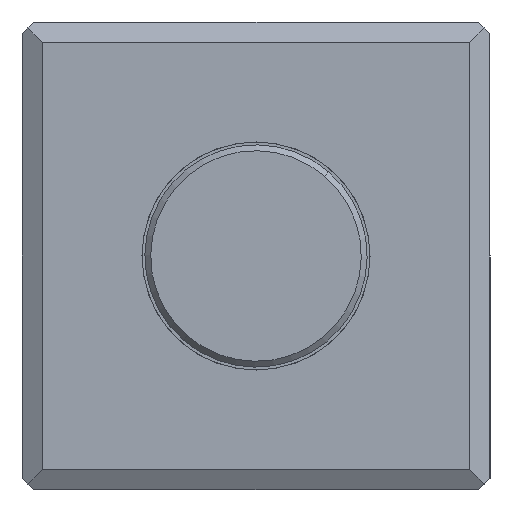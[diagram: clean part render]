
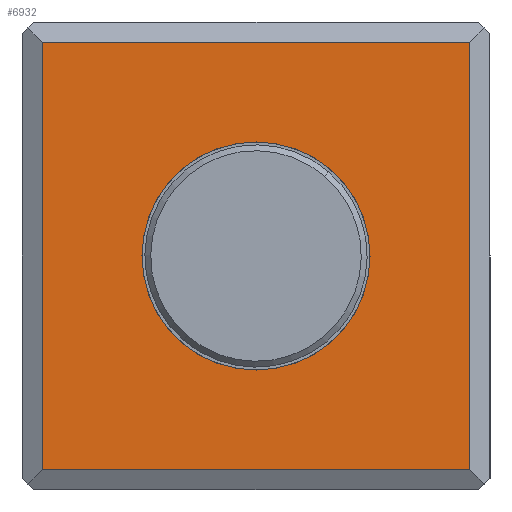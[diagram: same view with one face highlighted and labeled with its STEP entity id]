
A CAD part, left-side view. The second image highlights one B-rep face of the part: STEP entity #6932.
In plain terms, the highlighted planar face has unit normal (-1, 0, 0).
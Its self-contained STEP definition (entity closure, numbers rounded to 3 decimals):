
#29 = EDGE_CURVE ( 'NONE', #4789, #8455, #6675, .T. ) ;
#39 = CARTESIAN_POINT ( 'NONE',  ( -48., 0., 0. ) ) ;
#293 = EDGE_CURVE ( 'NONE', #5531, #4389, #4932, .T. ) ;
#337 = DIRECTION ( 'NONE',  ( 0., 1., 0. ) ) ;
#528 = CARTESIAN_POINT ( 'NONE',  ( -48., 0., 0. ) ) ;
#545 = VECTOR ( 'NONE', #7267, 1000. ) ;
#652 = DIRECTION ( 'NONE',  ( 0., 0., -1. ) ) ;
#734 = EDGE_CURVE ( 'NONE', #4389, #3025, #2541, .T. ) ;
#876 = DIRECTION ( 'NONE',  ( -1., 0., 0. ) ) ;
#995 = CARTESIAN_POINT ( 'NONE',  ( -48., 0., 9.75 ) ) ;
#1786 = VECTOR ( 'NONE', #652, 1000. ) ;
#1988 = DIRECTION ( 'NONE',  ( 0., -1., 0. ) ) ;
#2024 = ORIENTED_EDGE ( 'NONE', *, *, #293, .T. ) ;
#2060 = ORIENTED_EDGE ( 'NONE', *, *, #29, .F. ) ;
#2195 = CARTESIAN_POINT ( 'NONE',  ( -48., 18.268, 18.268 ) ) ;
#2456 = DIRECTION ( 'NONE',  ( 0., 0., -1. ) ) ;
#2541 = LINE ( 'NONE', #5665, #545 ) ;
#2940 = VECTOR ( 'NONE', #1988, 1000. ) ;
#2944 = EDGE_LOOP ( 'NONE', ( #2024, #7387, #5568, #7682 ) ) ;
#3018 = CARTESIAN_POINT ( 'NONE',  ( -48., 0., -9.75 ) ) ;
#3025 = VERTEX_POINT ( 'NONE', #5192 ) ;
#3229 = AXIS2_PLACEMENT_3D ( 'NONE', #528, #9245, #5267 ) ;
#3363 = EDGE_CURVE ( 'NONE', #8455, #4789, #8752, .T. ) ;
#3559 = CARTESIAN_POINT ( 'NONE',  ( -48., -9.75, -18.268 ) ) ;
#3746 = AXIS2_PLACEMENT_3D ( 'NONE', #39, #4866, #2456 ) ;
#3782 = PLANE ( 'NONE',  #4471 ) ;
#3909 = FACE_BOUND ( 'NONE', #8600, .T. ) ;
#4052 = LINE ( 'NONE', #7037, #1786 ) ;
#4230 = LINE ( 'NONE', #6826, #6105 ) ;
#4260 = FACE_OUTER_BOUND ( 'NONE', #2944, .T. ) ;
#4389 = VERTEX_POINT ( 'NONE', #6786 ) ;
#4471 = AXIS2_PLACEMENT_3D ( 'NONE', #7221, #876, #4873 ) ;
#4515 = CARTESIAN_POINT ( 'NONE',  ( -48., 18.268, -18.268 ) ) ;
#4789 = VERTEX_POINT ( 'NONE', #995 ) ;
#4866 = DIRECTION ( 'NONE',  ( -1., 0., 0. ) ) ;
#4873 = DIRECTION ( 'NONE',  ( 0., 0., -1. ) ) ;
#4932 = LINE ( 'NONE', #3559, #2940 ) ;
#5192 = CARTESIAN_POINT ( 'NONE',  ( -48., -18.268, 18.268 ) ) ;
#5267 = DIRECTION ( 'NONE',  ( 0., 0., -1. ) ) ;
#5531 = VERTEX_POINT ( 'NONE', #4515 ) ;
#5568 = ORIENTED_EDGE ( 'NONE', *, *, #8862, .T. ) ;
#5617 = EDGE_CURVE ( 'NONE', #8908, #5531, #4052, .T. ) ;
#5665 = CARTESIAN_POINT ( 'NONE',  ( -48., -18.268, 0. ) ) ;
#6105 = VECTOR ( 'NONE', #337, 1000. ) ;
#6675 = CIRCLE ( 'NONE', #3229, 9.75 ) ;
#6786 = CARTESIAN_POINT ( 'NONE',  ( -48., -18.268, -18.268 ) ) ;
#6826 = CARTESIAN_POINT ( 'NONE',  ( -48., -9.75, 18.268 ) ) ;
#6932 = ADVANCED_FACE ( 'NONE', ( #4260, #3909 ), #3782, .T. ) ;
#7037 = CARTESIAN_POINT ( 'NONE',  ( -48., 18.268, 0. ) ) ;
#7221 = CARTESIAN_POINT ( 'NONE',  ( -48., -9.75, 0. ) ) ;
#7267 = DIRECTION ( 'NONE',  ( 0., 0., 1. ) ) ;
#7387 = ORIENTED_EDGE ( 'NONE', *, *, #734, .T. ) ;
#7543 = ORIENTED_EDGE ( 'NONE', *, *, #3363, .F. ) ;
#7682 = ORIENTED_EDGE ( 'NONE', *, *, #5617, .T. ) ;
#8455 = VERTEX_POINT ( 'NONE', #3018 ) ;
#8600 = EDGE_LOOP ( 'NONE', ( #7543, #2060 ) ) ;
#8752 = CIRCLE ( 'NONE', #3746, 9.75 ) ;
#8862 = EDGE_CURVE ( 'NONE', #3025, #8908, #4230, .T. ) ;
#8908 = VERTEX_POINT ( 'NONE', #2195 ) ;
#9245 = DIRECTION ( 'NONE',  ( -1., 0., 0. ) ) ;
